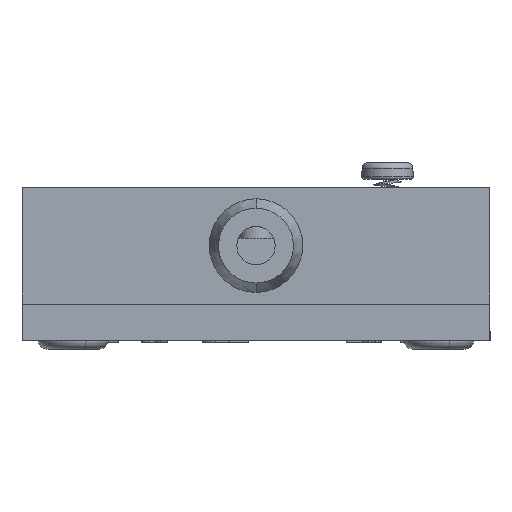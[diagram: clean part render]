
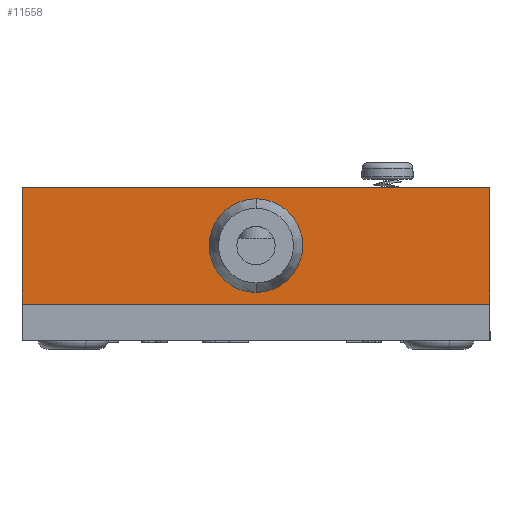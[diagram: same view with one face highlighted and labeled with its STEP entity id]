
A CAD part, front view. The second image highlights one B-rep face of the part: STEP entity #11558.
In plain terms, the highlighted planar face has unit normal (0, -1, 0).
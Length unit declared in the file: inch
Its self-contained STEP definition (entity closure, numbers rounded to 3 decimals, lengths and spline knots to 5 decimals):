
#105 = VECTOR ( 'NONE', #3957, 39.37008 ) ;
#584 = CIRCLE ( 'NONE', #25684, 0.1 ) ;
#1003 = CARTESIAN_POINT ( 'NONE',  ( 0.375, -0.37729, 0.10759 ) ) ;
#1132 = AXIS2_PLACEMENT_3D ( 'NONE', #6995, #27665, #9992 ) ;
#3348 = CARTESIAN_POINT ( 'NONE',  ( 0.375, -0.37729, -0.14241 ) ) ;
#3957 = DIRECTION ( 'NONE',  ( 0., 0., -1. ) ) ;
#4057 = FACE_BOUND ( 'NONE', #7968, .T. ) ;
#4635 = ORIENTED_EDGE ( 'NONE', *, *, #32579, .T. ) ;
#5041 = DIRECTION ( 'NONE',  ( 0., 0., -1. ) ) ;
#5461 = VERTEX_POINT ( 'NONE', #29217 ) ;
#5910 = CARTESIAN_POINT ( 'NONE',  ( -0.125, -0.37729, -0.11741 ) ) ;
#6123 = VECTOR ( 'NONE', #21315, 39.37008 ) ;
#6209 = VECTOR ( 'NONE', #5041, 39.37008 ) ;
#6995 = CARTESIAN_POINT ( 'NONE',  ( -0.125, -0.37729, -0.01741 ) ) ;
#6999 = LINE ( 'NONE', #18344, #6123 ) ;
#7429 = EDGE_CURVE ( 'NONE', #26062, #5461, #21318, .T. ) ;
#7968 = EDGE_LOOP ( 'NONE', ( #4635, #36264 ) ) ;
#9907 = CARTESIAN_POINT ( 'NONE',  ( -0.125, -0.37729, -0.01741 ) ) ;
#9992 = DIRECTION ( 'NONE',  ( -1., 0., 0. ) ) ;
#10970 = FACE_OUTER_BOUND ( 'NONE', #29573, .T. ) ;
#11168 = PLANE ( 'NONE',  #11924 ) ;
#11558 = ADVANCED_FACE ( 'NONE', ( #4057, #10970 ), #11168, .F. ) ;
#11924 = AXIS2_PLACEMENT_3D ( 'NONE', #25512, #19546, #28503 ) ;
#12878 = DIRECTION ( 'NONE',  ( -1., 0., 0. ) ) ;
#14935 = CARTESIAN_POINT ( 'NONE',  ( -0.625, -0.37729, -0.14241 ) ) ;
#15898 = CARTESIAN_POINT ( 'NONE',  ( -0.625, -0.37729, 0.10759 ) ) ;
#16655 = LINE ( 'NONE', #1003, #105 ) ;
#18255 = VERTEX_POINT ( 'NONE', #32010 ) ;
#18344 = CARTESIAN_POINT ( 'NONE',  ( 0.375, -0.37729, -0.14241 ) ) ;
#18615 = ORIENTED_EDGE ( 'NONE', *, *, #33260, .T. ) ;
#18674 = VERTEX_POINT ( 'NONE', #14935 ) ;
#19546 = DIRECTION ( 'NONE',  ( 0., 1., 0. ) ) ;
#20006 = LINE ( 'NONE', #22690, #6209 ) ;
#20265 = CARTESIAN_POINT ( 'NONE',  ( 0.375, -0.37729, 0.10759 ) ) ;
#20316 = ORIENTED_EDGE ( 'NONE', *, *, #27227, .T. ) ;
#21315 = DIRECTION ( 'NONE',  ( 1., 0., 0. ) ) ;
#21318 = LINE ( 'NONE', #20265, #29211 ) ;
#22690 = CARTESIAN_POINT ( 'NONE',  ( -0.625, -0.37729, 0.10759 ) ) ;
#23364 = ORIENTED_EDGE ( 'NONE', *, *, #7429, .F. ) ;
#24135 = ORIENTED_EDGE ( 'NONE', *, *, #27857, .F. ) ;
#24667 = CIRCLE ( 'NONE', #1132, 0.1 ) ;
#25512 = CARTESIAN_POINT ( 'NONE',  ( 0.375, -0.37729, 0.10759 ) ) ;
#25684 = AXIS2_PLACEMENT_3D ( 'NONE', #9907, #30552, #12878 ) ;
#26062 = VERTEX_POINT ( 'NONE', #15898 ) ;
#27227 = EDGE_CURVE ( 'NONE', #18674, #31025, #6999, .T. ) ;
#27508 = EDGE_CURVE ( 'NONE', #18255, #28967, #584, .T. ) ;
#27665 = DIRECTION ( 'NONE',  ( 0., 1., 0. ) ) ;
#27857 = EDGE_CURVE ( 'NONE', #5461, #31025, #16655, .T. ) ;
#28503 = DIRECTION ( 'NONE',  ( -1., 0., 0. ) ) ;
#28967 = VERTEX_POINT ( 'NONE', #5910 ) ;
#29211 = VECTOR ( 'NONE', #34994, 39.37008 ) ;
#29217 = CARTESIAN_POINT ( 'NONE',  ( 0.375, -0.37729, 0.10759 ) ) ;
#29573 = EDGE_LOOP ( 'NONE', ( #20316, #24135, #23364, #18615 ) ) ;
#30552 = DIRECTION ( 'NONE',  ( 0., 1., 0. ) ) ;
#31025 = VERTEX_POINT ( 'NONE', #3348 ) ;
#32010 = CARTESIAN_POINT ( 'NONE',  ( -0.125, -0.37729, 0.08259 ) ) ;
#32579 = EDGE_CURVE ( 'NONE', #28967, #18255, #24667, .T. ) ;
#33260 = EDGE_CURVE ( 'NONE', #26062, #18674, #20006, .T. ) ;
#34994 = DIRECTION ( 'NONE',  ( 1., 0., 0. ) ) ;
#36264 = ORIENTED_EDGE ( 'NONE', *, *, #27508, .T. ) ;
